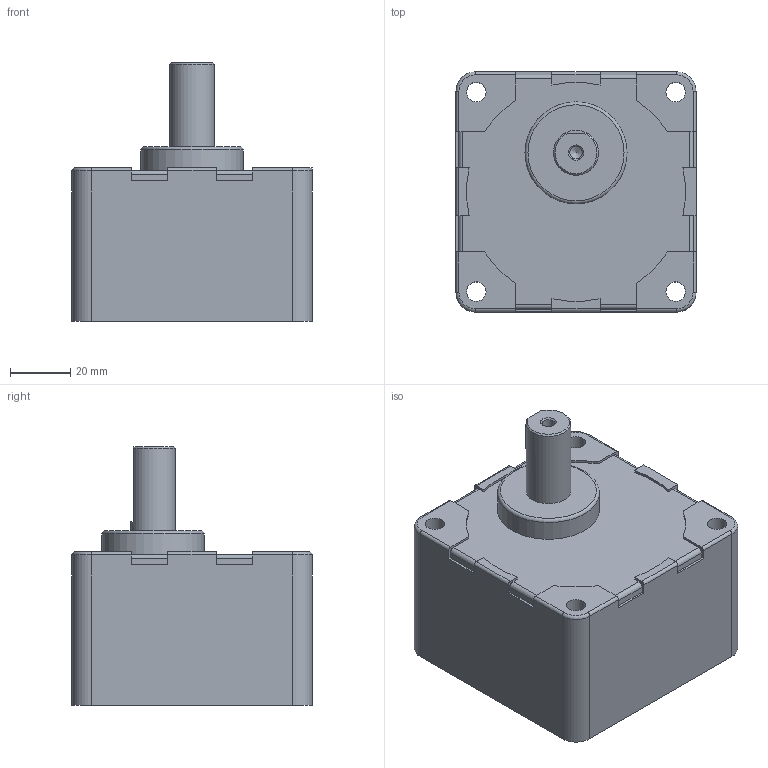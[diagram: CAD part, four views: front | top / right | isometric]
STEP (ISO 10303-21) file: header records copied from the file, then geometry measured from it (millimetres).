
FILE_DESCRIPTION(/* description */ (''),/* implementation_level */ '2;1');
FILE_NAME(/* name */ 'Y:\제품연구개발\3. 도면\3. 고객배포용\3D_홈페이지용\01-1 Standard AC SG Series\0704) 미주향 SG 도면\3D GEAR HEAD\SG8DA150~360.stp',/* time_stamp */ '2023-11-23T10:59:52+09:00',/* author */ ('shyi1037'),/* organization */ (''),/* preprocessor_version */ 'ST-DEVELOPER v18.1',/* originating_system */ 'Autodesk Inventor 2022',/* authorisation */ '');
FILE_SCHEMA (('AUTOMOTIVE_DESIGN { 1 0 10303 214 3 1 1 }'));
Length unit declared in the file: millimetre
Products named in the file (1): SG8DA150~360
Bounding box: 80 x 80 x 86 mm (x, y, z)
Volume: 314760.4 mm3; surface area: 35492.9 mm2
Topology: 1 solids, 1 shells, 102 faces, 277 edges, 181 vertices
Faces by surface type: plane 52, cylinder 40, cone 5, torus 5
Full cylindrical faces by diameter (mm): 4.134 x1, 6.5 x4, 7.5 x1, 15 x1, 34 x1, 73 x1
Entity records: 3277 total; most frequent: DIRECTION 574, CARTESIAN_POINT 564, ORIENTED_EDGE 552, EDGE_CURVE 276, AXIS2_PLACEMENT_3D 197, VERTEX_POINT 181, LINE 180, VECTOR 180
